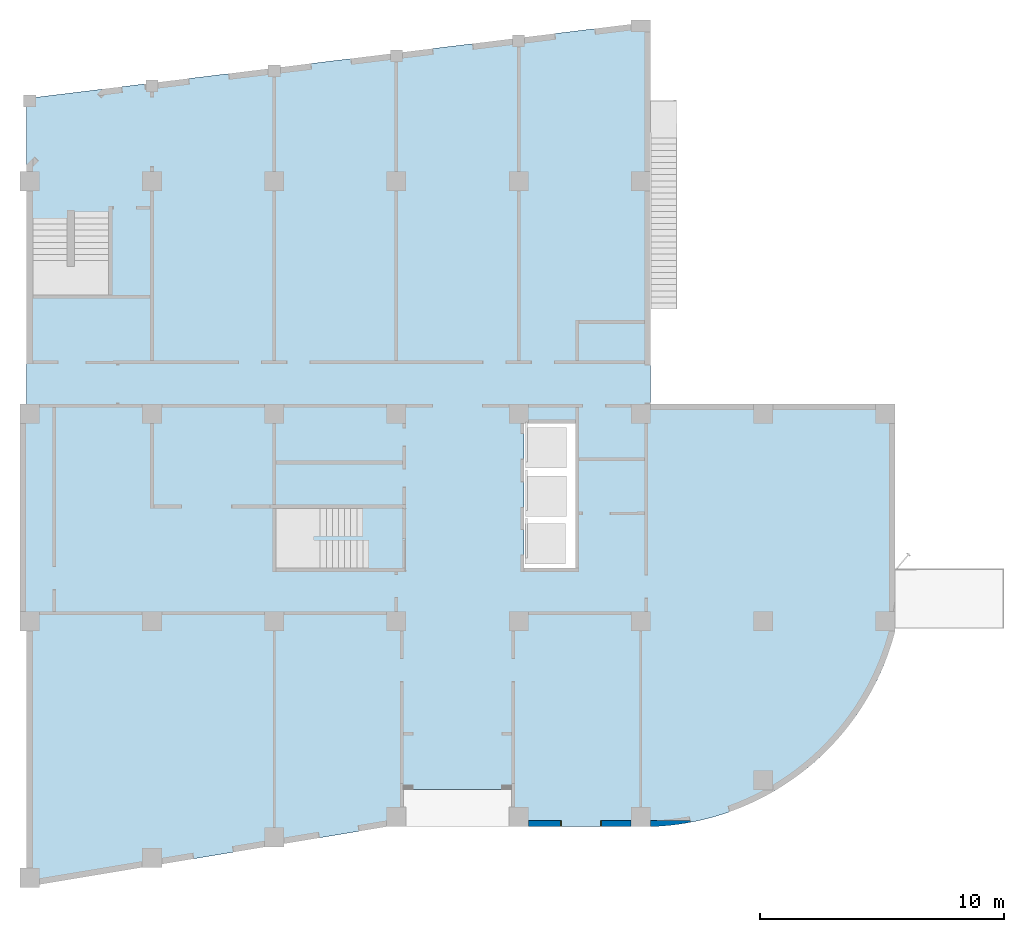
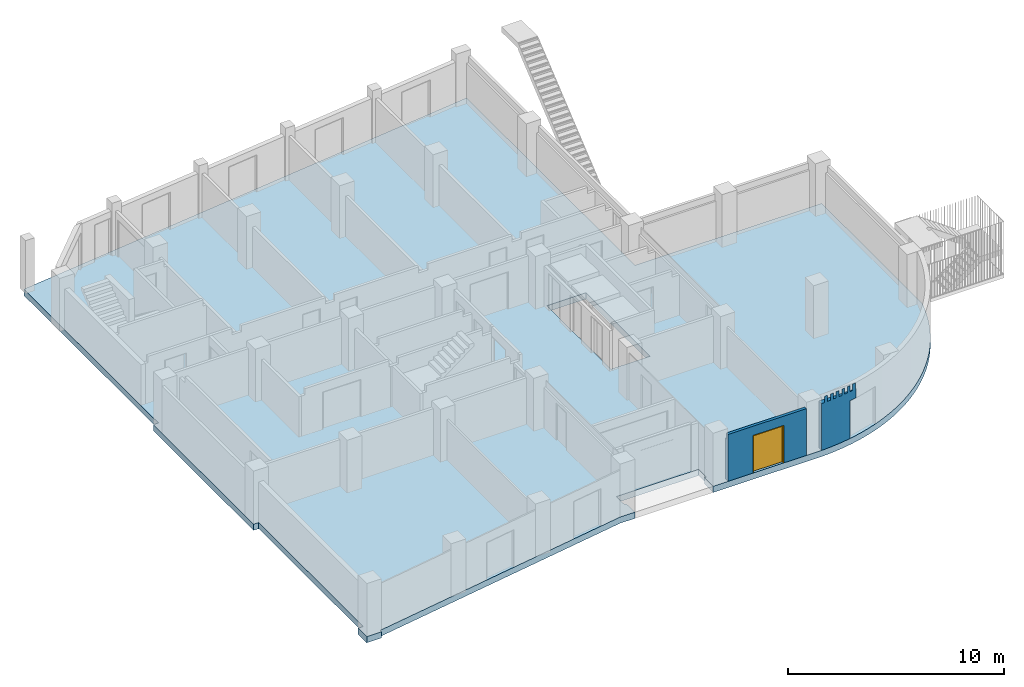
# One storey, part 3 of 9: 1 door, 1 slab, 1 wall, 1 opening.
"""IFC2X3 building model written with IfcOpenShell, lengths in millimetres."""

from ifc_helpers import new_model, entity, si_unit, converted_unit, derived_unit, money_unit, direction, frame, origin_with_axes, place, context, subcontext, project, spatial, open_shell, faceted_brep, surface_model, source, transform, mapped, material, type_object, element, fill, save


model = new_model("IFC2X3")

# Units and contexts
model_context = context("Model", 3, precision=0.01, world=origin_with_axes(), true_north=direction((0.0, 1.0)))
body_context = subcontext(model_context, "Body", "Model", "MODEL_VIEW")
ifc_project = project(units=[si_unit("LENGTHUNIT", "METRE", prefix="MILLI"), si_unit("AREAUNIT", "SQUARE_METRE"), si_unit("VOLUMEUNIT", "CUBIC_METRE"), converted_unit("PLANEANGLEUNIT", "DEGREE", entity("IfcPlaneAngleMeasure", 0.0174532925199), si_unit("PLANEANGLEUNIT", "RADIAN"), dimensions=[0, 0, 0, 0, 0, 0, 0]), si_unit("SOLIDANGLEUNIT", "STERADIAN"), money_unit("JPY"), converted_unit("TIMEUNIT", "Year", entity("IfcTimeMeasure", 31556926.0), si_unit("TIMEUNIT", "SECOND"), dimensions=[0, 0, 1, 0, 0, 0, 0]), si_unit("MASSUNIT", "GRAM", prefix="KILO"), si_unit("THERMODYNAMICTEMPERATUREUNIT", "DEGREE_CELSIUS"), si_unit("LUMINOUSINTENSITYUNIT", "LUMEN"), si_unit("ENERGYUNIT", "JOULE", prefix="MEGA"), derived_unit("THERMALCONDUCTANCEUNIT", [(si_unit("POWERUNIT", "WATT"), 1), (si_unit("LENGTHUNIT", "METRE"), -1), (si_unit("THERMODYNAMICTEMPERATUREUNIT", "KELVIN"), -1)]), derived_unit("SPECIFICHEATCAPACITYUNIT", [(si_unit("ENERGYUNIT", "JOULE"), 1), (si_unit("MASSUNIT", "GRAM", prefix="KILO"), -1), (si_unit("THERMODYNAMICTEMPERATUREUNIT", "KELVIN"), -1)]), derived_unit("MASSDENSITYUNIT", [(si_unit("MASSUNIT", "GRAM", prefix="KILO"), 1), (si_unit("VOLUMEUNIT", "CUBIC_METRE"), -1)])], contexts=[model_context])

# Site, building, storey
site_placement = place(None, origin_with_axes())
site = spatial("IfcSite", under=ifc_project, at=site_placement, Name="サイト", CompositionType="ELEMENT")
building_placement = place(site_placement, origin_with_axes())
building = spatial("IfcBuilding", under=site, at=building_placement, Name="建築", CompositionType="ELEMENT")
storey_placement = place(building_placement, origin_with_axes())
storey = spatial("IfcBuildingStorey", under=building, at=storey_placement, Name="1FL", CompositionType="ELEMENT", Elevation=0.0)

# Slab
ifc_material = material(Name="コンクリート")
slab_type = type_object("IfcSlabType", Name="コンクリート 350", PredefinedType="FLOOR")
slab_placement = place(storey_placement, frame((-400.0, -400.0, 0.0), z_axis=(0.0, 0.0, 1.0), x_axis=(1.0, 0.0, 0.0)))
element("IfcSlab", 1, at=slab_placement, inside=storey, type_object=slab_type, material=ifc_material, Name="S2", PredefinedType="FLOOR", context=body_context, shape_type="Brep", body=[
    faceted_brep([(0.0, -9700.0, -350.0), (275.000021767, -9699.99992816, -350.0), (275.000021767, 5.53278578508e-05, -350.0), (0.0, 0.0, -350.0), (0.0, 9300.000045, -350.0), (275.0, 9300.000045, -350.0), (275.0, 21793.6203347, -350.0), (25799.9999418, 24927.6962446, -350.0), (25800.0000009, 9300.00011565, -350.0), (35800.0, 9300.0, -350.0), (35799.9999654, -16.0489949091, -350.0), (35766.359354, -146.88247913, -350.0), (35675.0769038, -461.239394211, -350.0), (35574.2038941, -772.651326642, -350.0), (35463.8350776, -1080.82575797, -350.0), (35344.0741273, -1385.47321082, -350.0), (35215.0335379, -1686.30752083, -350.0), (35076.8345214, -1983.04610541, -350.0), (34929.6068919, -2275.41022922, -350.0), (34773.4889449, -2563.12526598, -350.0), (34608.6273265, -2845.92095644, -350.0), (34435.1768961, -3123.53166223, -350.0), (34253.3005809, -3395.69661538, -350.0), (34063.1692226, -3662.16016331, -350.0), (33864.9614174, -3922.6720089, -350.0), (33658.8633475, -4176.98744567, -350.0), (33445.0686072, -4424.86758758, -350.0), (33223.77802, -4666.07959349, -350.0), (32995.1994508, -4900.39688581, -350.0), (32759.5476103, -5127.59936337, -350.0), (32517.0438531, -5347.47360816, -350.0), (32267.9159703, -5559.81308577, -350.0), (32012.3979749, -5764.41833946, -350.0), (31750.7298828, -5961.09717744, -350.0), (31483.1574864, -6149.66485346, -350.0), (31209.9321244, -6329.94424032, -350.0), (30931.3104455, -6501.76599625, -350.0), (30647.5541673, -6664.96872398, -350.0), (30358.9298304, -6819.39912236, -350.0), (30065.7085483, -6964.91213034, -350.0), (29768.1657524, -7101.37106324, -350.0), (29466.5809335, -7228.64774115, -350.0), (29161.237379, -7346.62260931, -350.0), (28852.4219073, -7455.18485044, -350.0), (28540.4245979, -7554.2324888, -350.0), (28225.538519, -7643.67248602, -350.0), (27908.0594525, -7723.42082846, -350.0), (27588.285616, -7793.40260613, -350.0), (27266.5173823, -7853.55208309, -350.0), (26943.056998, -7903.81275914, -350.0), (26618.208299, -7944.13742295, -350.0), (26292.2764253, -7974.48819636, -350.0), (25965.5675343, -7994.83656999, -350.0), (25801.9780238, -8000.0, -350.0), (25400.0, -8000.0, -350.0), (20000.0, -8000.0, -350.0), (20000.0, -7200.0, -350.0), (20100.0000772, -7200.00000691, -350.0), (20100.0000519, -6475.0, -350.0), (15699.9999475, -6475.0, -350.0), (15699.99992, -7199.99996958, -350.0), (15800.0, -7200.0, -350.0), (15800.0, -8000.0, -350.0), (14999.9999956, -7999.9999738, -350.0), (800.000071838, -10366.6666278, -350.0), (800.0, -10500.0, -350.0), (0.0, -10500.0, -350.0), (22722.2140268, 8499.99999739, -350.0), (20624.9999754, 8499.99999739, -350.0), (20624.9999754, 2574.99999739, -350.0), (22722.2140268, 2574.99999739, -350.0), (0.0, -9700.0, 0.0), (275.000021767, -9699.99992816, 0.0), (275.000021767, 5.53278578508e-05, 0.0), (0.0, 0.0, 0.0), (0.0, 9300.000045, 0.0), (275.0, 9300.000045, 0.0), (275.0, 21793.6203347, 0.0), (25799.9999418, 24927.6962446, 0.0), (25800.0000009, 9300.00011565, 0.0), (35800.0, 9300.0, 0.0), (35799.9999654, -16.0489949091, 0.0), (35766.359354, -146.88247913, 0.0), (35675.0769038, -461.239394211, 0.0), (35574.2038941, -772.651326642, 0.0), (35463.8350776, -1080.82575797, 0.0), (35344.0741273, -1385.47321082, 0.0), (35215.0335379, -1686.30752083, 0.0), (35076.8345214, -1983.04610541, 0.0), (34929.6068919, -2275.41022922, 0.0), (34773.4889449, -2563.12526598, 0.0), (34608.6273265, -2845.92095644, 0.0), (34435.1768961, -3123.53166223, 0.0), (34253.3005809, -3395.69661538, 0.0), (34063.1692226, -3662.16016331, 0.0), (33864.9614174, -3922.6720089, 0.0), (33658.8633475, -4176.98744567, 0.0), (33445.0686072, -4424.86758758, 0.0), (33223.77802, -4666.07959349, 0.0), (32995.1994508, -4900.39688581, 0.0), (32759.5476103, -5127.59936337, 0.0), (32517.0438531, -5347.47360816, 0.0), (32267.9159703, -5559.81308577, 0.0), (32012.3979749, -5764.41833946, 0.0), (31750.7298828, -5961.09717744, 0.0), (31483.1574864, -6149.66485346, 0.0), (31209.9321244, -6329.94424032, 0.0), (30931.3104455, -6501.76599625, 0.0), (30647.5541673, -6664.96872398, 0.0), (30358.9298304, -6819.39912236, 0.0), (30065.7085483, -6964.91213034, 0.0), (29768.1657524, -7101.37106324, 0.0), (29466.5809335, -7228.64774115, 0.0), (29161.237379, -7346.62260931, 0.0), (28852.4219073, -7455.18485044, 0.0), (28540.4245979, -7554.2324888, 0.0), (28225.538519, -7643.67248602, 0.0), (27908.0594525, -7723.42082846, 0.0), (27588.285616, -7793.40260613, 0.0), (27266.5173823, -7853.55208309, 0.0), (26943.056998, -7903.81275914, 0.0), (26618.208299, -7944.13742295, 0.0), (26292.2764253, -7974.48819636, 0.0), (25965.5675343, -7994.83656999, 0.0), (25801.9780238, -8000.0, 0.0), (25400.0, -8000.0, 0.0), (20000.0, -8000.0, 0.0), (20000.0, -7200.0, 0.0), (20100.0000772, -7200.00000691, 0.0), (20100.0000519, -6475.0, 0.0), (15699.9999475, -6475.0, 0.0), (15699.99992, -7199.99996958, 0.0), (15800.0, -7200.0, 0.0), (15800.0, -8000.0, 0.0), (14999.9999956, -7999.9999738, 0.0), (800.000071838, -10366.6666278, 0.0), (800.0, -10500.0, 0.0), (0.0, -10500.0, 0.0), (22722.2140268, 8499.99999739, 0.0), (20624.9999754, 8499.99999739, 0.0), (20624.9999754, 2574.99999739, 0.0), (22722.2140268, 2574.99999739, 0.0)], [[[0, 1, 2, 3, 4, 5, 6, 7, 8, 9, 10, 11, 12, 13, 14, 15, 16, 17, 18, 19, 20, 21, 22, 23, 24, 25, 26, 27, 28, 29, 30, 31, 32, 33, 34, 35, 36, 37, 38, 39, 40, 41, 42, 43, 44, 45, 46, 47, 48, 49, 50, 51, 52, 53, 54, 55, 56, 57, 58, 59, 60, 61, 62, 63, 64, 65, 66], [67, 68, 69, 70]], [[0, 71, 72, 1]], [[1, 72, 73, 2]], [[2, 73, 74, 3]], [[3, 74, 75, 4]], [[4, 75, 76, 5]], [[5, 76, 77, 6]], [[6, 77, 78, 7]], [[7, 78, 79, 8]], [[8, 79, 80, 9]], [[9, 80, 81, 10]], [[10, 81, 82, 11]], [[11, 82, 83, 12]], [[12, 83, 84, 13]], [[13, 84, 85, 14]], [[14, 85, 86, 15]], [[15, 86, 87, 16]], [[16, 87, 88, 17]], [[17, 88, 89, 18]], [[18, 89, 90, 19]], [[19, 90, 91, 20]], [[20, 91, 92, 21]], [[21, 92, 93, 22]], [[22, 93, 94, 23]], [[23, 94, 95, 24]], [[24, 95, 96, 25]], [[25, 96, 97, 26]], [[26, 97, 98, 27]], [[27, 98, 99, 28]], [[28, 99, 100, 29]], [[29, 100, 101, 30]], [[30, 101, 102, 31]], [[31, 102, 103, 32]], [[32, 103, 104, 33]], [[33, 104, 105, 34]], [[34, 105, 106, 35]], [[35, 106, 107, 36]], [[36, 107, 108, 37]], [[37, 108, 109, 38]], [[38, 109, 110, 39]], [[39, 110, 111, 40]], [[40, 111, 112, 41]], [[41, 112, 113, 42]], [[42, 113, 114, 43]], [[43, 114, 115, 44]], [[44, 115, 116, 45]], [[45, 116, 117, 46]], [[46, 117, 118, 47]], [[47, 118, 119, 48]], [[48, 119, 120, 49]], [[49, 120, 121, 50]], [[50, 121, 122, 51]], [[51, 122, 123, 52]], [[52, 123, 124, 53]], [[53, 124, 125, 54]], [[54, 125, 126, 55]], [[55, 126, 127, 56]], [[56, 127, 128, 57]], [[57, 128, 129, 58]], [[58, 129, 130, 59]], [[59, 130, 131, 60]], [[60, 131, 132, 61]], [[61, 132, 133, 62]], [[62, 133, 134, 63]], [[63, 134, 135, 64]], [[64, 135, 136, 65]], [[65, 136, 137, 66]], [[66, 137, 71, 0]], [[68, 67, 138, 139]], [[69, 68, 139, 140]], [[70, 69, 140, 141]], [[67, 70, 141, 138]], [[76, 75, 74, 73, 72, 71, 137, 136, 135, 134, 133, 132, 131, 130, 129, 128, 127, 126, 125, 124, 123, 122, 121, 120, 119, 118, 117, 116, 115, 114, 113, 112, 111, 110, 109, 108, 107, 106, 105, 104, 103, 102, 101, 100, 99, 98, 97, 96, 95, 94, 93, 92, 91, 90, 89, 88, 87, 86, 85, 84, 83, 82, 81, 80, 79, 78, 77], [138, 141, 140, 139]]]),
])

# Wall, opening, door
wall_type = type_object("IfcWallType", Name="コンクリート 250", PredefinedType="NOTDEFINED")
wall_placement = place(storey_placement, frame((19775.0000519, -8275.0, 0.0), z_axis=(0.0, 0.0, 1.0), x_axis=(1.0, 0.0, 0.0)))
wall = element("IfcWall", 2, at=wall_placement, inside=storey, type_object=wall_type, material=ifc_material, Name="W4", context=body_context, shape_type="Brep", body=[
    faceted_brep([(7423.88674945, 83.7407624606, 2130.0), (7611.43907571, 125.0, 2130.0), (7611.43907571, 125.0, 2650.0), (7578.84652163, 117.830033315, 2650.0), (7578.84652166, 117.830033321, 3000.0), (7423.88674945, 83.7407624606, 3000.0), (7240.75440974, 125.0, 2130.0), (7260.17168457, 52.9779434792, 2130.0), (7240.75440974, 125.0, 0.0), (5624.99994809, 125.0, 0.0), (5624.99994809, 125.0, 2650.0), (5624.99994809, -125.0, 2650.0), (5626.97797189, -125.0, 2650.0), (5628.96667839, -124.937044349, 2650.0), (5791.56064152, -119.774713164, 2650.0), (5955.71554959, -109.550671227, 2650.0), (6119.066145, -99.3215328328, 2650.0), (6282.83045632, -84.071801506, 2650.0), (6445.78838824, -68.8171405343, 2650.0), (6609.00827699, -48.556055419, 2650.0), (6771.41897287, -28.2903528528, 2650.0), (6933.94112501, -3.03695665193, 2650.0), (7095.65053167, 22.2205534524, 2650.0), (7257.32228885, 52.4425288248, 2650.0), (7418.17701865, 82.667877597, 2650.0), (7418.17701865, 82.667877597, 3000.0), (7257.32228885, 52.4425288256, 3000.0), (7100.59778238, 22.9932681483, 3000.0), (7100.59778238, 22.9932681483, 0.0), (7260.17168457, 52.9779434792, 0.0), (6775.59142226, -27.7697121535, 0.0), (6449.17595729, -68.5000266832, 0.0), (6121.66101231, -99.1590402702, 0.0), (5793.35725511, -119.717670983, 0.0), (5628.96667839, -124.937044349, 0.0), (5626.98381282, -125.0, 0.0), (5624.99994809, -125.0, 0.0), (5793.35725511, -119.717670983, 3000.0), (5791.56064152, -119.774713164, 3000.0), (5955.71554963, -109.550671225, 3000.0), (6121.66101231, -99.1590402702, 3000.0), (6119.066145, -99.3215328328, 3000.0), (6282.83045634, -84.0718015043, 3000.0), (6449.17595729, -68.5000266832, 3000.0), (6445.78838824, -68.8171405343, 3000.0), (6609.00827701, -48.556055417, 3000.0), (6771.41897287, -28.2903528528, 3000.0), (6775.59142226, -27.7697121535, 3000.0), (6933.94112499, -3.03695665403, 3000.0), (7095.65053167, 22.2205534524, 3000.0)], [[[0, 1, 2, 3, 4, 5]], [[6, 1, 0, 7]], [[6, 8, 9, 10, 2, 1]], [[3, 2, 10, 11, 12, 13, 14, 15, 16, 17, 18, 19, 20, 21, 22, 23, 24]], [[24, 25, 4, 3]], [[5, 4, 25]], [[7, 0, 5, 25, 24, 23, 26, 27, 28, 29]], [[7, 29, 8, 6]], [[8, 29, 28, 30, 31, 32, 33, 34, 35, 36, 9]], [[9, 36, 11, 10]], [[35, 12, 11, 36]], [[35, 34, 13, 12]], [[37, 38, 14, 13, 34, 33]], [[14, 38, 39, 15]], [[16, 15, 39, 37, 33, 32, 40, 41]], [[16, 41, 42, 17]], [[18, 17, 42, 40, 32, 31, 43, 44]], [[18, 44, 45, 19]], [[46, 20, 19, 45, 43, 31, 30, 47]], [[20, 46, 48, 21]], [[22, 21, 48, 47, 30, 28, 27, 49]], [[22, 49, 26, 23]], [[27, 26, 49]], [[37, 39, 38]], [[40, 42, 41]], [[43, 45, 44]], [[47, 48, 46]]]),
    faceted_brep([(1945.98898594, 125.0, 2130.0), (1945.98898594, 125.0, 0.0), (624.999948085, 125.0, 0.0), (624.999948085, 125.0, 2300.0), (4824.99994809, 125.0, 2300.0), (4824.99994809, 125.0, 0.0), (3605.98898594, 125.0, 0.0), (3605.98898594, 125.0, 2130.0), (1945.98898594, -125.0, 2130.0), (1945.98898594, -125.0, 0.0), (624.999948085, -125.0, 0.0), (624.999948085, -125.0, 2650.0), (624.999948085, 25.0, 2650.0), (624.999948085, 24.9999994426, 2300.0), (4824.99994809, 24.9999958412, 2300.0), (4824.99994809, 25.0, 2650.0), (4824.99994809, -125.0, 2650.0), (4824.99994809, -125.0, 0.0), (3605.98898594, -125.0, 0.0), (3605.98898594, -125.0, 2130.0)], [[[0, 1, 2, 3, 4, 5, 6, 7]], [[1, 0, 8, 9]], [[1, 9, 10, 2]], [[2, 10, 11, 12, 13, 3]], [[3, 13, 14, 4]], [[14, 15, 16, 17, 5, 4]], [[18, 6, 5, 17]], [[7, 6, 18, 19]], [[0, 7, 19, 8]], [[19, 18, 17, 16, 11, 10, 9, 8]], [[12, 11, 16, 15]], [[13, 12, 15, 14]]]),
])
opening_placement = place(wall_placement, frame((2775.98898594, 0.0, 0.0), z_axis=(0.0, 0.0, 1.0), x_axis=(1.0, 0.0, 0.0)))
opening = element("IfcOpeningElement", 3, at=opening_placement, cuts=wall, Name="SD5", context=body_context, shape_type="Brep", body=[
    faceted_brep([(830.0, 260.0, 0.0), (830.0, 260.0, 2130.0), (830.0, -260.0, 2130.0), (830.0, -260.0, 0.0), (-830.0, 260.0, 0.0), (-830.0, 260.0, 2130.0), (-830.0, -260.0, 2130.0), (-830.0, -260.0, 0.0)], [[[0, 1, 2, 3]], [[0, 4, 5, 1]], [[1, 5, 6, 2]], [[3, 2, 6, 7]], [[4, 0, 3, 7]], [[5, 4, 7, 6]]]),
])
door_style = type_object("IfcDoorStyle", Name="自由開き戸", ConstructionType="NOTDEFINED", OperationType="NOTDEFINED", ParameterTakesPrecedence=False, Sizeable=False)
shared_shape = source(origin_with_axes(), body_context, "Body", "SurfaceModel", [
    surface_model("IfcShellBasedSurfaceModel", [(0.0, 135.0, 0.0), (-800.0, 135.0, 0.0), (-800.0, 135.0, 2100.0), (0.0, 135.0, 2100.0)], [open_shell([[[0, 1, 2, 3]]])]),
    surface_model("IfcShellBasedSurfaceModel", [(0.0, 135.0, 0.0), (0.0, 135.0, 2100.0), (800.0, 135.0, 2100.0), (800.0, 135.0, 0.0)], [open_shell([[[0, 1, 2, 3]]])]),
    surface_model("IfcShellBasedSurfaceModel", [(830.0, 260.0, 0.0), (800.0, 260.0, 0.0), (800.0, 260.0, 2100.0), (-800.0, 260.0, 2100.0), (-800.0, 260.0, 0.0), (-830.0, 260.0, 0.0), (-830.0, 260.0, 2130.0), (830.0, 260.0, 2130.0)], [open_shell([[[0, 1, 2, 3, 4, 5, 6, 7]]])]),
    surface_model("IfcShellBasedSurfaceModel", [(830.0, 10.0, 0.0), (800.0, 10.0, 0.0), (800.0, 10.0, 2100.0), (-800.0, 10.0, 2100.0), (-800.0, 10.0, 0.0), (-830.0, 10.0, 0.0), (-830.0, 10.0, 2130.0), (830.0, 10.0, 2130.0)], [open_shell([[[0, 1, 2, 3, 4, 5, 6, 7]]])]),
    surface_model("IfcShellBasedSurfaceModel", [(800.0, 260.0, 0.0), (800.0, 10.0, 0.0), (800.0, 10.0, 2100.0), (800.0, 260.0, 2100.0), (830.0, 260.0, 0.0), (830.0, 10.0, 0.0), (-800.0, 10.0, 2100.0), (-800.0, 260.0, 2100.0), (830.0, 260.0, 2130.0), (830.0, 10.0, 2130.0), (-800.0, 10.0, 0.0), (-800.0, 260.0, 0.0), (-830.0, 260.0, 2130.0), (-830.0, 10.0, 2130.0), (-830.0, 10.0, 0.0), (-830.0, 260.0, 0.0)], [open_shell([[[0, 1, 2, 3]], [[4, 5, 1, 0]], [[3, 2, 6, 7]], [[8, 9, 5, 4]], [[7, 6, 10, 11]], [[12, 13, 9, 8]], [[11, 10, 14, 15]], [[15, 14, 13, 12]]])]),
])
door_placement = place(opening_placement, frame((-800.0, 0.0, 0.0), z_axis=(0.0, 0.0, 1.0), x_axis=(1.0, 0.0, 0.0)))
door = element("IfcDoor", 4, at=door_placement, inside=storey, type_object=door_style, Name="SD5", OverallHeight=2150.0, OverallWidth=1700.0, context=body_context, shape_type="MappedRepresentation", body=[
    mapped(shared_shape, transform((800.0, -135.0, 0.0))),
])
fill(opening, door)

save(model, "model.ifc")
